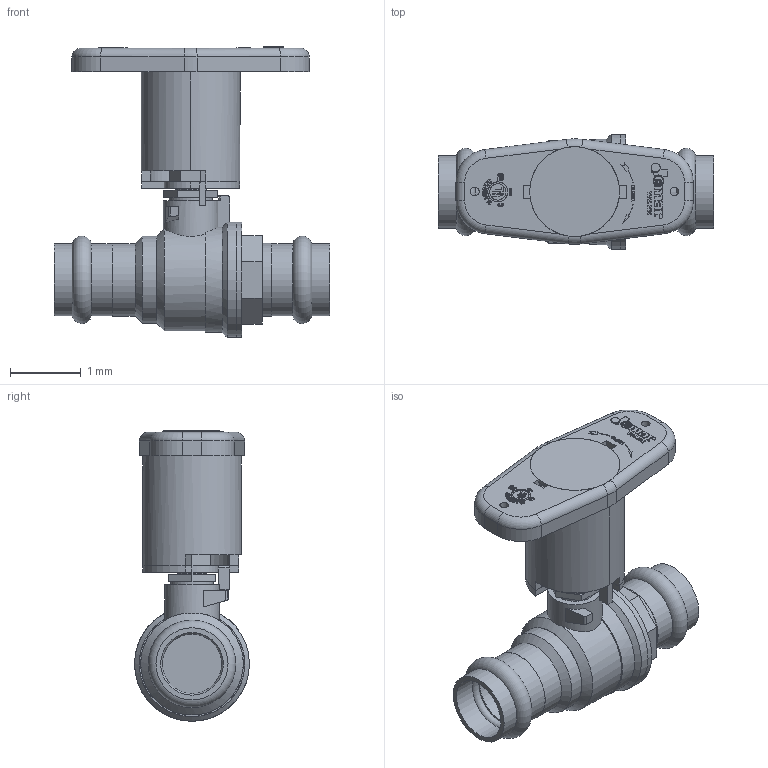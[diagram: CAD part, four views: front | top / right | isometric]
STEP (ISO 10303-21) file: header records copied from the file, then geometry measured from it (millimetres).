
FILE_DESCRIPTION(('Open CASCADE Model'),'2;1');
FILE_NAME('Open CASCADE Shape Model','2021-10-14T08:57:37',('Author'),( 'Open CASCADE'),'Open CASCADE STEP processor 7.3','Open CASCADE 7.3' ,'Unknown');
FILE_SCHEMA(('AUTOMOTIVE_DESIGN { 1 0 10303 214 1 1 1 1 }'));
Length unit declared in the file: millimetre
Products named in the file (138): Open CASCADE STEP translator 7.3 1; Open CASCADE STEP translator 7.3 1.1; Open CASCADE STEP translator 7.3 1.2; Open CASCADE STEP translator 7.3 1.3; Open CASCADE STEP translator 7.3 1.4; Open CASCADE STEP translator 7.3 1.5; Open CASCADE STEP translator 7.3 1.6; Open CASCADE STEP translator 7.3 1.7; Open CASCADE STEP translator 7.3 1.8; Open CASCADE STEP translator 7.3 1.9; Open CASCADE STEP translator 7.3 1.10; Open CASCADE STEP translator 7.3 1.11; Open CASCADE STEP translator 7.3 1.12; Open CASCADE STEP translator 7.3 1.13; Open CASCADE STEP translator 7.3 1.14; Open CASCADE STEP translator 7.3 1.15; Open CASCADE STEP translator 7.3 1.16; Open CASCADE STEP translator 7.3 1.17; Open CASCADE STEP translator 7.3 1.18; Open CASCADE STEP translator 7.3 1.19; Open CASCADE STEP translator 7.3 1.20; Open CASCADE STEP translator 7.3 1.21; Open CASCADE STEP translator 7.3 1.22; Open CASCADE STEP translator 7.3 1.22.1; Open CASCADE STEP translator 7.3 1.22.2; Open CASCADE STEP translator 7.3 1.22.3; Open CASCADE STEP translator 7.3 1.22.4; Open CASCADE STEP translator 7.3 1.22.5; Open CASCADE STEP translator 7.3 1.22.6; Open CASCADE STEP translator 7.3 1.22.7; Open CASCADE STEP translator 7.3 1.22.8; Open CASCADE STEP translator 7.3 1.22.9; Open CASCADE STEP translator 7.3 1.22.10; Open CASCADE STEP translator 7.3 1.22.11; Open CASCADE STEP translator 7.3 1.22.12; Open CASCADE STEP translator 7.3 1.22.13; Open CASCADE STEP translator 7.3 1.22.14; Open CASCADE STEP translator 7.3 1.22.15; Open CASCADE STEP translator 7.3 1.22.16; Open CASCADE STEP translator 7.3 1.22.17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
Assembly tree (137 placements, depth 3):
  Open CASCADE STEP translator 7.3 1
    Open CASCADE STEP translator 7.3 1.1
    Open CASCADE STEP translator 7.3 1.2
    Open CASCADE STEP translator 7.3 1.3
    Open CASCADE STEP translator 7.3 1.4
    Open CASCADE STEP translator 7.3 1.5
    Open CASCADE STEP translator 7.3 1.6
    Open CASCADE STEP translator 7.3 1.7
    Open CASCADE STEP translator 7.3 1.8
    Open CASCADE STEP translator 7.3 1.9
    Open CASCADE STEP translator 7.3 1.10
    Open CASCADE STEP translator 7.3 1.11
    Open CASCADE STEP translator 7.3 1.12
    Open CASCADE STEP translator 7.3 1.13
    Open CASCADE STEP translator 7.3 1.14
    Open CASCADE STEP translator 7.3 1.15
    Open CASCADE STEP translator 7.3 1.16
    Open CASCADE STEP translator 7.3 1.17
    Open CASCADE STEP translator 7.3 1.18
    Open CASCADE STEP translator 7.3 1.19
    Open CASCADE STEP translator 7.3 1.20
    Open CASCADE STEP translator 7.3 1.21
    Open CASCADE STEP translator 7.3 1.22
      Open CASCADE STEP translator 7.3 1.22.1
      Open CASCADE STEP translator 7.3 1.22.2
      Open CASCADE STEP translator 7.3 1.22.3
      Open CASCADE STEP translator 7.3 1.22.4
      Open CASCADE STEP translator 7.3 1.22.5
      Open CASCADE STEP translator 7.3 1.22.6
      Open CASCADE STEP translator 7.3 1.22.7
      Open CASCADE STEP translator 7.3 1.22.8
      Open CASCADE STEP translator 7.3 1.22.9
      Open CASCADE STEP translator 7.3 1.22.10
      Open CASCADE STEP translator 7.3 1.22.11
      Open CASCADE STEP translator 7.3 1.22.12
      Open CASCADE STEP translator 7.3 1.22.13
      Open CASCADE STEP translator 7.3 1.22.14
      Open CASCADE STEP translator 7.3 1.22.15
      Open CASCADE STEP translator 7.3 1.22.16
      Open CASCADE STEP translator 7.3 1.22.17
      Open CASCADE STEP translator 7.3 1.22.18
      Open CASCADE STEP translator 7.3 1.22.19
      Open CASCADE STEP translator 7.3 1.22.20
      Open CASCADE STEP translator 7.3 1.22.21
      Open CASCADE STEP translator 7.3 1.22.22
      Open CASCADE STEP translator 7.3 1.22.23
      Open CASCADE STEP translator 7.3 1.22.24
      Open CASCADE STEP translator 7.3 1.22.25
      Open CASCADE STEP translator 7.3 1.22.26
      Open CASCADE STEP translator 7.3 1.22.27
      Open CASCADE STEP translator 7.3 1.22.28
      Open CASCADE STEP translator 7.3 1.22.29
      Open CASCADE STEP translator 7.3 1.22.30
      Open CASCADE STEP translator 7.3 1.22.31
      Open CASCADE STEP translator 7.3 1.22.32
      Open CASCADE STEP translator 7.3 1.22.33
      Open CASCADE STEP translator 7.3 1.22.34
      Open CASCADE STEP translator 7.3 1.22.35
      Open CASCADE STEP translator 7.3 1.22.36
      Open CASCADE STEP translator 7.3 1.22.37
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Bounding box: 3.9 x 1.62 x 4.11 mm (x, y, z)
Volume: 1.8 mm3; surface area: 71.1 mm2
Topology: 47 solids, 136 shells, 2692 faces, 7863 edges, 5334 vertices
Faces by surface type: plane 2548, cylinder 123, torus 12, extrusion 6, cone 3
Full cylindrical faces by diameter (mm): 0.015 x1, 0.017 x1, 0.044 x1, 0.062 x1, 0.124 x3, 0.32 x1, 0.34 x1, 0.42 x1, 0.435 x1, 0.61 x1, 0.885 x4, 1.02 x4, 1.025 x1, 1.03 x1, 1.105 x1, 1.152 x2, 1.229 x1, 1.23 x1, 1.271 x1, 1.625 x2
Entity records: 192008 total; most frequent: CARTESIAN_POINT 33630, DIRECTION 29032, VECTOR 22543, LINE 22537, ORIENTED_EDGE 15390, PCURVE 15390, DEFINITIONAL_REPRESENTATION 15390, EDGE_CURVE 7863
